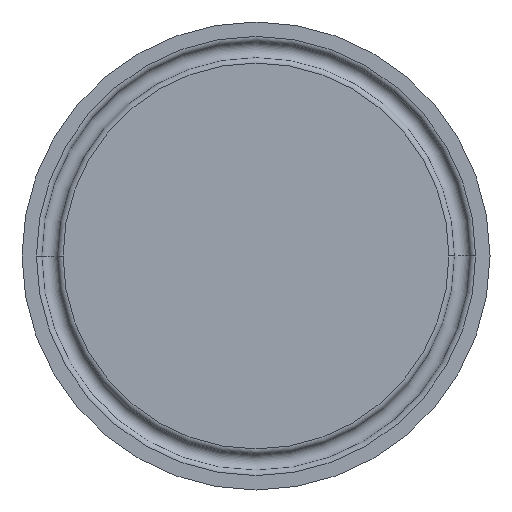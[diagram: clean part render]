
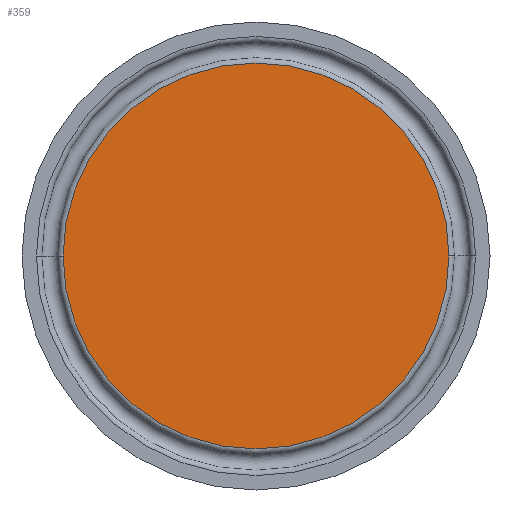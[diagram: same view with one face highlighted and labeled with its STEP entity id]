
A CAD part, front view. The second image highlights one B-rep face of the part: STEP entity #359.
In plain terms, the highlighted planar face has unit normal (0, -1, 0).
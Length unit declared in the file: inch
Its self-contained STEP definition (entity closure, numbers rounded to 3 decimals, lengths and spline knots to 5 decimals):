
#7 = ORIENTED_EDGE ( 'NONE', *, *, #9, .F. ) ;
#9 = EDGE_CURVE ( 'NONE', #374, #40, #339, .T. ) ;
#40 = VERTEX_POINT ( 'NONE', #112 ) ;
#70 = ORIENTED_EDGE ( 'NONE', *, *, #188, .F. ) ;
#78 = CARTESIAN_POINT ( 'NONE',  ( 0., 0., 0. ) ) ;
#82 = DIRECTION ( 'NONE',  ( 0., 1., 0. ) ) ;
#104 = DIRECTION ( 'NONE',  ( 0., 1., 0. ) ) ;
#112 = CARTESIAN_POINT ( 'NONE',  ( -1.03742, 0., 0. ) ) ;
#117 = CARTESIAN_POINT ( 'NONE',  ( 0., 0., 0. ) ) ;
#134 = AXIS2_PLACEMENT_3D ( 'NONE', #78, #82, #231 ) ;
#155 = AXIS2_PLACEMENT_3D ( 'NONE', #255, #104, #322 ) ;
#161 = AXIS2_PLACEMENT_3D ( 'NONE', #117, #409, #307 ) ;
#188 = EDGE_CURVE ( 'NONE', #40, #374, #239, .T. ) ;
#231 = DIRECTION ( 'NONE',  ( -1., 0., 0. ) ) ;
#239 = CIRCLE ( 'NONE', #155, 1.03742 ) ;
#255 = CARTESIAN_POINT ( 'NONE',  ( 0., 0., 0. ) ) ;
#275 = FACE_OUTER_BOUND ( 'NONE', #408, .T. ) ;
#278 = CARTESIAN_POINT ( 'NONE',  ( 1.03742, 0., 0. ) ) ;
#307 = DIRECTION ( 'NONE',  ( 1., 0., 0. ) ) ;
#322 = DIRECTION ( 'NONE',  ( -1., 0., 0. ) ) ;
#339 = CIRCLE ( 'NONE', #134, 1.03742 ) ;
#359 = ADVANCED_FACE ( 'NONE', ( #275 ), #405, .T. ) ;
#374 = VERTEX_POINT ( 'NONE', #278 ) ;
#405 = PLANE ( 'NONE',  #161 ) ;
#408 = EDGE_LOOP ( 'NONE', ( #70, #7 ) ) ;
#409 = DIRECTION ( 'NONE',  ( 0., -1., 0. ) ) ;
